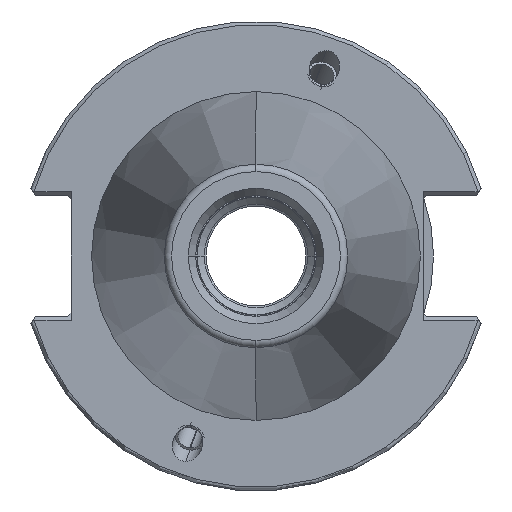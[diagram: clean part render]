
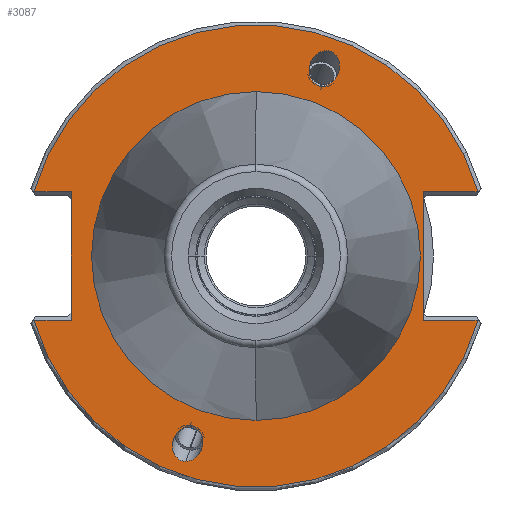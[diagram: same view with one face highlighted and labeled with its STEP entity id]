
A CAD part, left-side view. The second image highlights one B-rep face of the part: STEP entity #3087.
In plain terms, the highlighted planar face has unit normal (-1, 0, 0).
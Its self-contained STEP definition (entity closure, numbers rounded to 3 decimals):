
#116=CARTESIAN_POINT('',(3.175,0.,0.));
#117=DIRECTION('',(1.,0.,0.));
#118=DIRECTION('',(0.,1.,0.));
#119=AXIS2_PLACEMENT_3D('',#116,#117,#118);
#121=CARTESIAN_POINT('',(3.175,0.,0.));
#122=DIRECTION('',(1.,0.,0.));
#123=DIRECTION('',(0.,-1.,0.));
#124=AXIS2_PLACEMENT_3D('',#121,#122,#123);
#126=CARTESIAN_POINT('',(3.175,9.498,-27.766));
#127=CARTESIAN_POINT('',(3.175,9.257,-27.766));
#128=CARTESIAN_POINT('',(3.175,8.727,-27.663));
#129=CARTESIAN_POINT('',(3.175,7.941,-27.117));
#130=CARTESIAN_POINT('',(3.175,7.379,-26.257));
#131=CARTESIAN_POINT('',(3.175,7.151,-25.372));
#132=CARTESIAN_POINT('',(3.175,7.185,-24.486));
#133=CARTESIAN_POINT('',(3.175,7.557,-23.627));
#134=CARTESIAN_POINT('',(3.175,8.223,-23.08));
#135=CARTESIAN_POINT('',(3.175,8.731,-22.978));
#136=CARTESIAN_POINT('',(3.175,8.971,-22.978));
#138=CARTESIAN_POINT('',(3.175,8.971,-22.978));
#139=CARTESIAN_POINT('',(3.175,9.212,-22.978));
#140=CARTESIAN_POINT('',(3.175,9.742,-23.08));
#141=CARTESIAN_POINT('',(3.175,10.528,-23.627));
#142=CARTESIAN_POINT('',(3.175,11.09,-24.486));
#143=CARTESIAN_POINT('',(3.175,11.318,-25.372));
#144=CARTESIAN_POINT('',(3.175,11.284,-26.257));
#145=CARTESIAN_POINT('',(3.175,10.912,-27.117));
#146=CARTESIAN_POINT('',(3.175,10.246,-27.663));
#147=CARTESIAN_POINT('',(3.175,9.738,-27.766));
#148=CARTESIAN_POINT('',(3.175,9.498,-27.766));
#150=CARTESIAN_POINT('',(3.175,-9.498,27.766));
#151=CARTESIAN_POINT('',(3.175,-9.257,27.766));
#152=CARTESIAN_POINT('',(3.175,-8.727,27.663));
#153=CARTESIAN_POINT('',(3.175,-7.941,27.117));
#154=CARTESIAN_POINT('',(3.175,-7.379,26.257));
#155=CARTESIAN_POINT('',(3.175,-7.151,25.372));
#156=CARTESIAN_POINT('',(3.175,-7.185,24.486));
#157=CARTESIAN_POINT('',(3.175,-7.557,23.627));
#158=CARTESIAN_POINT('',(3.175,-8.223,23.08));
#159=CARTESIAN_POINT('',(3.175,-8.731,22.978));
#160=CARTESIAN_POINT('',(3.175,-8.971,22.978));
#162=CARTESIAN_POINT('',(3.175,-8.971,22.978));
#163=CARTESIAN_POINT('',(3.175,-9.212,22.978));
#164=CARTESIAN_POINT('',(3.175,-9.742,23.08));
#165=CARTESIAN_POINT('',(3.175,-10.528,23.627));
#166=CARTESIAN_POINT('',(3.175,-11.09,24.486));
#167=CARTESIAN_POINT('',(3.175,-11.318,25.372));
#168=CARTESIAN_POINT('',(3.175,-11.284,26.257));
#169=CARTESIAN_POINT('',(3.175,-10.912,27.117));
#170=CARTESIAN_POINT('',(3.175,-10.246,27.663));
#171=CARTESIAN_POINT('',(3.175,-9.738,27.766));
#172=CARTESIAN_POINT('',(3.175,-9.498,27.766));
#174=DIRECTION('',(0.,-1.,0.));
#175=VECTOR('',#174,5.017);
#176=CARTESIAN_POINT('',(3.175,30.017,8.69));
#177=LINE('',#176,#175);
#178=DIRECTION('',(0.,-1.,0.));
#179=VECTOR('',#178,7.417);
#180=CARTESIAN_POINT('',(3.175,-22.6,8.69));
#181=LINE('',#180,#179);
#182=DIRECTION('',(0.,1.,0.));
#183=VECTOR('',#182,7.417);
#184=CARTESIAN_POINT('',(3.175,-30.017,-8.69));
#185=LINE('',#184,#183);
#186=DIRECTION('',(0.,1.,0.));
#187=VECTOR('',#186,5.017);
#188=CARTESIAN_POINT('',(3.175,25.,-8.69));
#189=LINE('',#188,#187);
#1596=DIRECTION('',(0.,0.,1.));
#1597=VECTOR('',#1596,17.38);
#1598=CARTESIAN_POINT('',(3.175,-22.6,-8.69));
#1599=LINE('',#1598,#1597);
#1680=CARTESIAN_POINT('',(3.175,0.,0.));
#1681=DIRECTION('',(-1.,0.,0.));
#1682=DIRECTION('',(0.,-0.961,0.278));
#1683=AXIS2_PLACEMENT_3D('',#1680,#1681,#1682);
#1995=DIRECTION('',(0.,0.,-1.));
#1996=VECTOR('',#1995,17.38);
#1997=CARTESIAN_POINT('',(3.175,25.,8.69));
#1998=LINE('',#1997,#1996);
#2146=CARTESIAN_POINT('',(3.175,0.,0.));
#2147=DIRECTION('',(-1.,0.,0.));
#2148=DIRECTION('',(0.,0.961,-0.278));
#2149=AXIS2_PLACEMENT_3D('',#2146,#2147,#2148);
#2510=CARTESIAN_POINT('',(3.175,22.2,0.));
#2511=CARTESIAN_POINT('',(3.175,-22.2,0.));
#2512=VERTEX_POINT('',#2510);
#2513=VERTEX_POINT('',#2511);
#2576=VERTEX_POINT('',#126);
#2577=VERTEX_POINT('',#136);
#2610=CARTESIAN_POINT('',(3.175,30.017,8.69));
#2611=CARTESIAN_POINT('',(3.175,25.,8.69));
#2612=VERTEX_POINT('',#2610);
#2613=VERTEX_POINT('',#2611);
#2618=CARTESIAN_POINT('',(3.175,25.,-8.69));
#2619=CARTESIAN_POINT('',(3.175,30.017,-8.69));
#2620=VERTEX_POINT('',#2618);
#2621=VERTEX_POINT('',#2619);
#2626=CARTESIAN_POINT('',(3.175,-22.6,8.69));
#2627=CARTESIAN_POINT('',(3.175,-30.017,8.69));
#2628=VERTEX_POINT('',#2626);
#2629=VERTEX_POINT('',#2627);
#2634=CARTESIAN_POINT('',(3.175,-30.017,
-8.69));
#2635=CARTESIAN_POINT('',(3.175,-22.6,-8.69));
#2636=VERTEX_POINT('',#2634);
#2637=VERTEX_POINT('',#2635);
#2672=CARTESIAN_POINT('',(3.175,-9.498,27.766));
#2673=VERTEX_POINT('',#2672);
#2674=CARTESIAN_POINT('',(3.175,-8.971,22.978));
#2675=VERTEX_POINT('',#2674);
#3048=CARTESIAN_POINT('',(3.175,0.,0.));
#3049=DIRECTION('',(1.,0.,0.));
#3050=DIRECTION('',(0.,0.,1.));
#3051=AXIS2_PLACEMENT_3D('',#3048,#3049,#3050);
#3052=PLANE('',#3051);
#3054=ORIENTED_EDGE('',*,*,#3053,.F.);
#3056=ORIENTED_EDGE('',*,*,#3055,.F.);
#3058=ORIENTED_EDGE('',*,*,#3057,.F.);
#3060=ORIENTED_EDGE('',*,*,#3059,.F.);
#3062=ORIENTED_EDGE('',*,*,#3061,.F.);
#3064=ORIENTED_EDGE('',*,*,#3063,.F.);
#3066=ORIENTED_EDGE('',*,*,#3065,.F.);
#3068=ORIENTED_EDGE('',*,*,#3067,.F.);
#3069=EDGE_LOOP('',(#3054,#3056,#3058,#3060,#3062,#3064,#3066,#3068));
#3070=FACE_OUTER_BOUND('',#3069,.F.);
#3072=ORIENTED_EDGE('',*,*,#3071,.T.);
#3074=ORIENTED_EDGE('',*,*,#3073,.T.);
#3075=EDGE_LOOP('',(#3072,#3074));
#3076=FACE_BOUND('',#3075,.F.);
#3078=ORIENTED_EDGE('',*,*,#3077,.T.);
#3080=ORIENTED_EDGE('',*,*,#3079,.T.);
#3081=EDGE_LOOP('',(#3078,#3080));
#3082=FACE_BOUND('',#3081,.F.);
#3083=ORIENTED_EDGE('',*,*,#3001,.F.);
#3084=ORIENTED_EDGE('',*,*,#3016,.F.);
#3085=EDGE_LOOP('',(#3083,#3084));
#3086=FACE_BOUND('',#3085,.F.);
#3087=ADVANCED_FACE('',(#3070,#3076,#3082,#3086),#3052,.F.);
#120=CIRCLE('',#119,22.2);
#125=CIRCLE('',#124,22.2);
#137=B_SPLINE_CURVE_WITH_KNOTS('',3,(#126,#127,#128,#129,#130,#131,#132,#133,
#134,#135,#136),.UNSPECIFIED.,.F.,.F.,(4,1,1,1,1,1,1,1,4),(0.,0.125,0.25,
0.375,0.5,0.625,0.75,0.875,1.),.UNSPECIFIED.);
#149=B_SPLINE_CURVE_WITH_KNOTS('',3,(#138,#139,#140,#141,#142,#143,#144,#145,
#146,#147,#148),.UNSPECIFIED.,.F.,.F.,(4,1,1,1,1,1,1,1,4),(0.,0.125,0.25,
0.375,0.5,0.625,0.75,0.875,1.),.UNSPECIFIED.);
#161=B_SPLINE_CURVE_WITH_KNOTS('',3,(#150,#151,#152,#153,#154,#155,#156,#157,
#158,#159,#160),.UNSPECIFIED.,.F.,.F.,(4,1,1,1,1,1,1,1,4),(0.,0.125,0.25,
0.375,0.5,0.625,0.75,0.875,1.),.UNSPECIFIED.);
#173=B_SPLINE_CURVE_WITH_KNOTS('',3,(#162,#163,#164,#165,#166,#167,#168,#169,
#170,#171,#172),.UNSPECIFIED.,.F.,.F.,(4,1,1,1,1,1,1,1,4),(0.,0.125,0.25,
0.375,0.5,0.625,0.75,0.875,1.),.UNSPECIFIED.);
#1684=CIRCLE('',#1683,31.25);
#2150=CIRCLE('',#2149,31.25);
#3001=EDGE_CURVE('',#2512,#2513,#120,.T.);
#3016=EDGE_CURVE('',#2513,#2512,#125,.T.);
#3053=EDGE_CURVE('',#2612,#2613,#177,.T.);
#3055=EDGE_CURVE('',#2629,#2612,#1684,.T.);
#3057=EDGE_CURVE('',#2628,#2629,#181,.T.);
#3059=EDGE_CURVE('',#2637,#2628,#1599,.T.);
#3061=EDGE_CURVE('',#2636,#2637,#185,.T.);
#3063=EDGE_CURVE('',#2621,#2636,#2150,.T.);
#3065=EDGE_CURVE('',#2620,#2621,#189,.T.);
#3067=EDGE_CURVE('',#2613,#2620,#1998,.T.);
#3071=EDGE_CURVE('',#2576,#2577,#137,.T.);
#3073=EDGE_CURVE('',#2577,#2576,#149,.T.);
#3077=EDGE_CURVE('',#2673,#2675,#161,.T.);
#3079=EDGE_CURVE('',#2675,#2673,#173,.T.);
